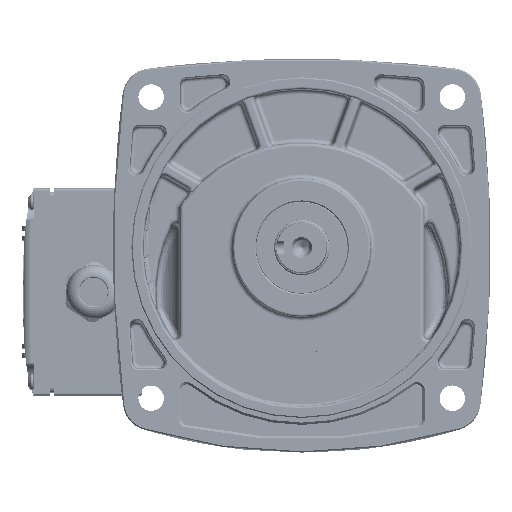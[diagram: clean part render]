
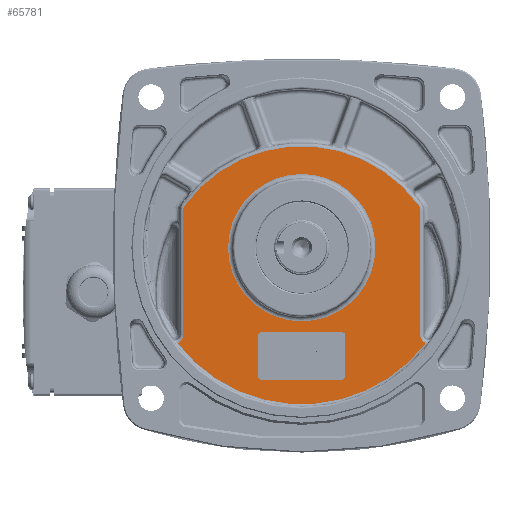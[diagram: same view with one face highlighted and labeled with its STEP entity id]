
A CAD part, top view. The second image highlights one B-rep face of the part: STEP entity #65781.
In plain terms, the highlighted planar face has unit normal (0, 0, 1).
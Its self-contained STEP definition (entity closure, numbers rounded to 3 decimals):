
#2636=B_SPLINE_CURVE_WITH_KNOTS('',3,(#112461,#112462,#112463,#112464,#112465,
#112466),.UNSPECIFIED.,.F.,.F.,(4,1,1,4),(0.,0.252,
0.378,0.441),.UNSPECIFIED.);
#2637=B_SPLINE_CURVE_WITH_KNOTS('',3,(#112499,#112500,#112501,#112502),
 .UNSPECIFIED.,.F.,.F.,(4,4),(0.,0.221),.UNSPECIFIED.);
#2638=B_SPLINE_CURVE_WITH_KNOTS('',3,(#112525,#112526,#112527,#112528),
 .UNSPECIFIED.,.F.,.F.,(4,4),(0.,0.221),.UNSPECIFIED.);
#2709=B_SPLINE_CURVE_WITH_KNOTS('',3,(#113721,#113722,#113723,#113724,#113725),
 .UNSPECIFIED.,.F.,.F.,(4,1,4),(0.442,0.631,0.883),
 .UNSPECIFIED.);
#7993=FACE_BOUND('',#15268,.T.);
#7994=FACE_BOUND('',#15269,.T.);
#8849=PLANE('',#71427);
#11147=FACE_OUTER_BOUND('',#15267,.T.);
#15267=EDGE_LOOP('',(#52721,#52722,#52723,#52724,#52725,#52726,#52727,#52728));
#15268=EDGE_LOOP('',(#52729,#52730,#52731,#52732,#52733,#52734,#52735,#52736));
#15269=EDGE_LOOP('',(#52737));
#19622=LINE('',#112470,#22910);
#19623=LINE('',#112475,#22911);
#19666=LINE('',#113728,#22954);
#19667=LINE('',#113732,#22955);
#19668=LINE('',#113736,#22956);
#19669=LINE('',#113740,#22957);
#22910=VECTOR('',#83484,10.);
#22911=VECTOR('',#83489,10.);
#22954=VECTOR('',#83876,10.);
#22955=VECTOR('',#83879,10.);
#22956=VECTOR('',#83882,10.);
#22957=VECTOR('',#83885,10.);
#25489=CIRCLE('',#70565,32.);
#25889=CIRCLE('',#71261,63.042);
#25992=CIRCLE('',#71428,67.999);
#25993=CIRCLE('',#71429,2.);
#25994=CIRCLE('',#71430,2.);
#25995=CIRCLE('',#71431,2.);
#25996=CIRCLE('',#71432,2.);
#30273=VERTEX_POINT('',#103110);
#30889=VERTEX_POINT('',#112447);
#30890=VERTEX_POINT('',#112459);
#30891=VERTEX_POINT('',#112468);
#30892=VERTEX_POINT('',#112472);
#30893=VERTEX_POINT('',#112474);
#30894=VERTEX_POINT('',#112497);
#30895=VERTEX_POINT('',#112523);
#31022=VERTEX_POINT('',#113719);
#31023=VERTEX_POINT('',#113726);
#31024=VERTEX_POINT('',#113727);
#31025=VERTEX_POINT('',#113729);
#31026=VERTEX_POINT('',#113731);
#31027=VERTEX_POINT('',#113733);
#31028=VERTEX_POINT('',#113735);
#31029=VERTEX_POINT('',#113737);
#31030=VERTEX_POINT('',#113739);
#37356=EDGE_CURVE('',#30273,#30273,#25489,.T.);
#38417=EDGE_CURVE('',#30890,#30889,#2636,.T.);
#38419=EDGE_CURVE('',#30891,#30890,#19622,.T.);
#38421=EDGE_CURVE('',#30892,#30893,#19623,.T.);
#38424=EDGE_CURVE('',#30894,#30891,#2637,.T.);
#38426=EDGE_CURVE('',#30893,#30895,#2638,.T.);
#38427=EDGE_CURVE('',#30895,#30894,#25889,.T.);
#38642=EDGE_CURVE('',#30889,#31022,#25992,.T.);
#38643=EDGE_CURVE('',#31022,#30892,#2709,.T.);
#38644=EDGE_CURVE('',#31023,#31024,#19666,.T.);
#38645=EDGE_CURVE('',#31025,#31024,#25993,.T.);
#38646=EDGE_CURVE('',#31025,#31026,#19667,.T.);
#38647=EDGE_CURVE('',#31027,#31026,#25994,.T.);
#38648=EDGE_CURVE('',#31027,#31028,#19668,.T.);
#38649=EDGE_CURVE('',#31029,#31028,#25995,.T.);
#38650=EDGE_CURVE('',#31029,#31030,#19669,.T.);
#38651=EDGE_CURVE('',#31023,#31030,#25996,.T.);
#52721=ORIENTED_EDGE('',*,*,#38642,.F.);
#52722=ORIENTED_EDGE('',*,*,#38417,.F.);
#52723=ORIENTED_EDGE('',*,*,#38419,.F.);
#52724=ORIENTED_EDGE('',*,*,#38424,.F.);
#52725=ORIENTED_EDGE('',*,*,#38427,.F.);
#52726=ORIENTED_EDGE('',*,*,#38426,.F.);
#52727=ORIENTED_EDGE('',*,*,#38421,.F.);
#52728=ORIENTED_EDGE('',*,*,#38643,.F.);
#52729=ORIENTED_EDGE('',*,*,#38644,.T.);
#52730=ORIENTED_EDGE('',*,*,#38645,.F.);
#52731=ORIENTED_EDGE('',*,*,#38646,.T.);
#52732=ORIENTED_EDGE('',*,*,#38647,.F.);
#52733=ORIENTED_EDGE('',*,*,#38648,.T.);
#52734=ORIENTED_EDGE('',*,*,#38649,.F.);
#52735=ORIENTED_EDGE('',*,*,#38650,.T.);
#52736=ORIENTED_EDGE('',*,*,#38651,.F.);
#52737=ORIENTED_EDGE('',*,*,#37356,.F.);
#65781=ADVANCED_FACE('',(#11147,#7993,#7994),#8849,.F.);
#70565=AXIS2_PLACEMENT_3D('',#103112,#81876,#81877);
#71261=AXIS2_PLACEMENT_3D('',#112530,#83498,#83499);
#71427=AXIS2_PLACEMENT_3D('',#113718,#83872,#83873);
#71428=AXIS2_PLACEMENT_3D('',#113720,#83874,#83875);
#71429=AXIS2_PLACEMENT_3D('',#113730,#83877,#83878);
#71430=AXIS2_PLACEMENT_3D('',#113734,#83880,#83881);
#71431=AXIS2_PLACEMENT_3D('',#113738,#83883,#83884);
#71432=AXIS2_PLACEMENT_3D('',#113741,#83886,#83887);
#81876=DIRECTION('center_axis',(0.,0.,1.));
#81877=DIRECTION('ref_axis',(-1.,0.,0.));
#83484=DIRECTION('',(0.,-1.,0.));
#83489=DIRECTION('',(0.,1.,0.));
#83498=DIRECTION('center_axis',(0.,0.,-1.));
#83499=DIRECTION('ref_axis',(0.,1.,0.));
#83872=DIRECTION('center_axis',(0.,0.,-1.));
#83873=DIRECTION('ref_axis',(-1.,0.,0.));
#83874=DIRECTION('center_axis',(0.,0.,-1.));
#83875=DIRECTION('ref_axis',(0.,-1.,0.));
#83876=DIRECTION('',(0.,1.,0.));
#83877=DIRECTION('center_axis',(0.,0.,1.));
#83878=DIRECTION('ref_axis',(-0.707,0.707,0.));
#83879=DIRECTION('',(1.,0.,0.));
#83880=DIRECTION('center_axis',(0.,0.,1.));
#83881=DIRECTION('ref_axis',(0.707,0.707,0.));
#83882=DIRECTION('',(0.,-1.,0.));
#83883=DIRECTION('center_axis',(0.,0.,1.));
#83884=DIRECTION('ref_axis',(0.707,-0.707,0.));
#83885=DIRECTION('',(-1.,0.,0.));
#83886=DIRECTION('center_axis',(0.,0.,1.));
#83887=DIRECTION('ref_axis',(-0.707,-0.707,0.));
#103110=CARTESIAN_POINT('',(34.891,19.08,42.));
#103112=CARTESIAN_POINT('Origin',(2.891,19.08,42.));
#112447=CARTESIAN_POINT('',(56.837,-22.316,42.));
#112459=CARTESIAN_POINT('',(54.391,-18.967,42.));
#112461=CARTESIAN_POINT('Ctrl Pts',(54.391,-18.967,42.));
#112462=CARTESIAN_POINT('Ctrl Pts',(54.391,-19.808,42.));
#112463=CARTESIAN_POINT('Ctrl Pts',(54.87,-21.07,42.));
#112464=CARTESIAN_POINT('Ctrl Pts',(56.051,-22.005,
42.));
#112465=CARTESIAN_POINT('Ctrl Pts',(56.638,-22.248,
42.));
#112466=CARTESIAN_POINT('Ctrl Pts',(56.838,-22.311,
42.));
#112468=CARTESIAN_POINT('',(54.391,35.309,42.));
#112470=CARTESIAN_POINT('',(54.391,-29.42,42.));
#112472=CARTESIAN_POINT('',(-48.609,-18.967,42.));
#112474=CARTESIAN_POINT('',(-48.609,35.309,42.));
#112475=CARTESIAN_POINT('',(-48.609,-29.42,42.));
#112497=CARTESIAN_POINT('',(53.711,37.384,42.));
#112499=CARTESIAN_POINT('Ctrl Pts',(53.711,37.384,42.));
#112500=CARTESIAN_POINT('Ctrl Pts',(54.147,36.789,42.));
#112501=CARTESIAN_POINT('Ctrl Pts',(54.391,36.046,42.));
#112502=CARTESIAN_POINT('Ctrl Pts',(54.391,35.309,42.));
#112523=CARTESIAN_POINT('',(-47.93,37.384,42.));
#112525=CARTESIAN_POINT('Ctrl Pts',(-48.609,35.309,
42.));
#112526=CARTESIAN_POINT('Ctrl Pts',(-48.609,36.046,
42.));
#112527=CARTESIAN_POINT('Ctrl Pts',(-48.366,36.789,42.));
#112528=CARTESIAN_POINT('Ctrl Pts',(-47.93,37.384,
42.));
#112530=CARTESIAN_POINT('Origin',(2.891,0.08,42.));
#113718=CARTESIAN_POINT('Origin',(2.891,0.08,42.));
#113719=CARTESIAN_POINT('',(-51.055,-22.316,42.));
#113720=CARTESIAN_POINT('Origin',(2.891,19.08,42.));
#113721=CARTESIAN_POINT('Ctrl Pts',(-51.056,-22.314,
42.));
#113722=CARTESIAN_POINT('Ctrl Pts',(-50.454,-22.12,
42.));
#113723=CARTESIAN_POINT('Ctrl Pts',(-49.164,-21.285,
42.));
#113724=CARTESIAN_POINT('Ctrl Pts',(-48.609,-19.808,
42.));
#113725=CARTESIAN_POINT('Ctrl Pts',(-48.609,-18.967,
42.));
#113726=CARTESIAN_POINT('',(-16.109,-36.42,42.));
#113727=CARTESIAN_POINT('',(-16.109,-19.42,42.));
#113728=CARTESIAN_POINT('',(-16.109,-8.67,42.));
#113729=CARTESIAN_POINT('',(-14.109,-17.42,42.));
#113730=CARTESIAN_POINT('Origin',(-14.109,-19.42,42.));
#113731=CARTESIAN_POINT('',(19.891,-17.42,42.));
#113732=CARTESIAN_POINT('',(12.391,-17.42,42.));
#113733=CARTESIAN_POINT('',(21.891,-19.42,42.));
#113734=CARTESIAN_POINT('Origin',(19.891,-19.42,42.));
#113735=CARTESIAN_POINT('',(21.891,-36.42,42.));
#113736=CARTESIAN_POINT('',(21.891,-19.17,42.));
#113737=CARTESIAN_POINT('',(19.891,-38.42,42.));
#113738=CARTESIAN_POINT('Origin',(19.891,-36.42,42.));
#113739=CARTESIAN_POINT('',(-14.109,-38.42,42.));
#113740=CARTESIAN_POINT('',(-6.609,-38.42,42.));
#113741=CARTESIAN_POINT('Origin',(-14.109,-36.42,42.));
